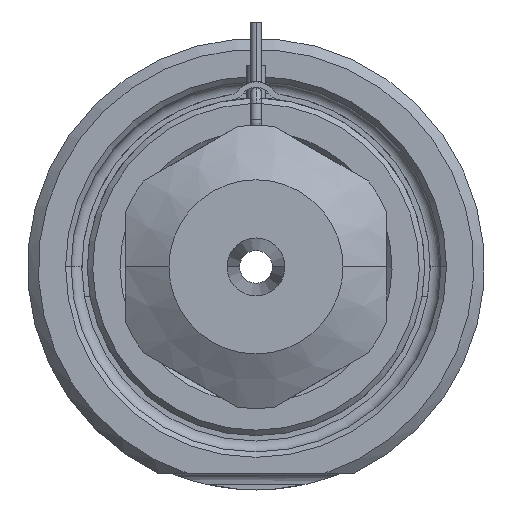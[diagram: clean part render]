
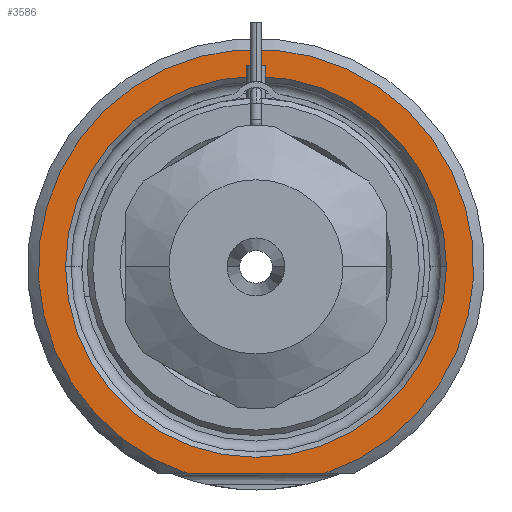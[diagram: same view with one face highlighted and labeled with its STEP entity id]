
A CAD part, front view. The second image highlights one B-rep face of the part: STEP entity #3586.
In plain terms, the highlighted planar face has unit normal (0, -1, 0).
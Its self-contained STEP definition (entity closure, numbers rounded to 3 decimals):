
#718=DIRECTION('',(1.,0.,0.));
#719=VECTOR('',#718,12.49);
#720=CARTESIAN_POINT('',(-6.245,0.,-19.));
#721=LINE('',#720,#719);
#722=CARTESIAN_POINT('',(0.,0.,0.));
#723=DIRECTION('',(0.,1.,0.));
#724=DIRECTION('',(-1.,0.,0.));
#725=AXIS2_PLACEMENT_3D('',#722,#723,#724);
#727=CARTESIAN_POINT('',(0.,0.,0.));
#728=DIRECTION('',(0.,1.,0.));
#729=DIRECTION('',(1.,0.,0.));
#730=AXIS2_PLACEMENT_3D('',#727,#728,#729);
#836=CARTESIAN_POINT('',(0.,0.,0.));
#837=DIRECTION('',(0.,-1.,0.));
#838=DIRECTION('',(0.312,0.,-0.95));
#839=AXIS2_PLACEMENT_3D('',#836,#837,#838);
#2415=CARTESIAN_POINT('',(-17.5,0.,0.));
#2416=CARTESIAN_POINT('',(17.5,0.,0.));
#2417=VERTEX_POINT('',#2415);
#2418=VERTEX_POINT('',#2416);
#2473=CARTESIAN_POINT('',(-6.245,0.,-19.));
#2474=CARTESIAN_POINT('',(6.245,0.,-19.));
#2475=VERTEX_POINT('',#2473);
#2476=VERTEX_POINT('',#2474);
#3570=CARTESIAN_POINT('',(0.,0.,0.));
#3571=DIRECTION('',(0.,-1.,0.));
#3572=DIRECTION('',(1.,0.,0.));
#3573=AXIS2_PLACEMENT_3D('',#3570,#3571,#3572);
#3574=PLANE('',#3573);
#3576=ORIENTED_EDGE('',*,*,#3575,.F.);
#3578=ORIENTED_EDGE('',*,*,#3577,.F.);
#3579=EDGE_LOOP('',(#3576,#3578));
#3580=FACE_OUTER_BOUND('',#3579,.F.);
#3581=ORIENTED_EDGE('',*,*,#3560,.F.);
#3583=ORIENTED_EDGE('',*,*,#3582,.F.);
#3584=EDGE_LOOP('',(#3581,#3583));
#3585=FACE_BOUND('',#3584,.F.);
#3586=ADVANCED_FACE('',(#3580,#3585),#3574,.T.);
#726=CIRCLE('',#725,17.5);
#731=CIRCLE('',#730,17.5);
#840=CIRCLE('',#839,20.);
#3560=EDGE_CURVE('',#2417,#2418,#726,.T.);
#3575=EDGE_CURVE('',#2475,#2476,#721,.T.);
#3577=EDGE_CURVE('',#2476,#2475,#840,.T.);
#3582=EDGE_CURVE('',#2418,#2417,#731,.T.);
